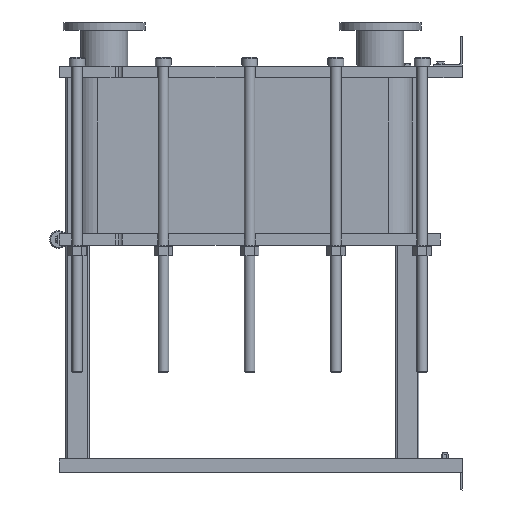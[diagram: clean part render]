
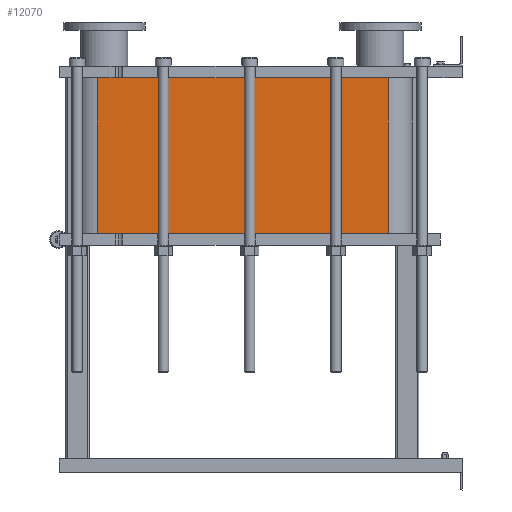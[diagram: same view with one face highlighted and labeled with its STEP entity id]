
A CAD part, left-side view. The second image highlights one B-rep face of the part: STEP entity #12070.
In plain terms, the highlighted planar face has unit normal (-1, 0, 0).
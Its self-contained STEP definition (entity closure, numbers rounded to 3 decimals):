
#1064=LINE('',#21140,#2164);
#1065=LINE('',#21144,#2165);
#1066=LINE('',#21146,#2166);
#1067=LINE('',#21147,#2167);
#2164=VECTOR('',#15790,10.);
#2165=VECTOR('',#15795,10.);
#2166=VECTOR('',#15796,10.);
#2167=VECTOR('',#15797,10.);
#3304=FACE_OUTER_BOUND('',#4091,.T.);
#4091=EDGE_LOOP('',(#9793,#9794,#9795,#9796));
#5677=VERTEX_POINT('',#21137);
#5678=VERTEX_POINT('',#21139);
#5679=VERTEX_POINT('',#21143);
#5680=VERTEX_POINT('',#21145);
#7118=EDGE_CURVE('',#5678,#5677,#1064,.T.);
#7120=EDGE_CURVE('',#5677,#5679,#1065,.T.);
#7121=EDGE_CURVE('',#5680,#5679,#1066,.T.);
#7122=EDGE_CURVE('',#5680,#5678,#1067,.T.);
#9793=ORIENTED_EDGE('',*,*,#7120,.T.);
#9794=ORIENTED_EDGE('',*,*,#7121,.F.);
#9795=ORIENTED_EDGE('',*,*,#7122,.T.);
#9796=ORIENTED_EDGE('',*,*,#7118,.T.);
#11441=PLANE('',#13191);
#12070=ADVANCED_FACE('',(#3304),#11441,.T.);
#13191=AXIS2_PLACEMENT_3D('',#21142,#15793,#15794);
#15790=DIRECTION('',(0.,0.,-1.));
#15793=DIRECTION('center_axis',(-1.,0.,0.));
#15794=DIRECTION('ref_axis',(0.,1.,0.));
#15795=DIRECTION('',(0.,-1.,0.));
#15796=DIRECTION('',(0.,0.,-1.));
#15797=DIRECTION('',(0.,1.,0.));
#21137=CARTESIAN_POINT('',(-248.152,1243.818,-531.3));
#21139=CARTESIAN_POINT('',(-248.152,1243.818,0.));
#21140=CARTESIAN_POINT('',(-248.152,1243.818,0.));
#21142=CARTESIAN_POINT('Origin',(-248.152,251.818,0.));
#21143=CARTESIAN_POINT('',(-248.152,251.818,-531.3));
#21144=CARTESIAN_POINT('',(-248.152,499.818,-531.3));
#21145=CARTESIAN_POINT('',(-248.152,251.818,0.));
#21146=CARTESIAN_POINT('',(-248.152,251.818,0.));
#21147=CARTESIAN_POINT('',(-248.152,251.818,0.));
